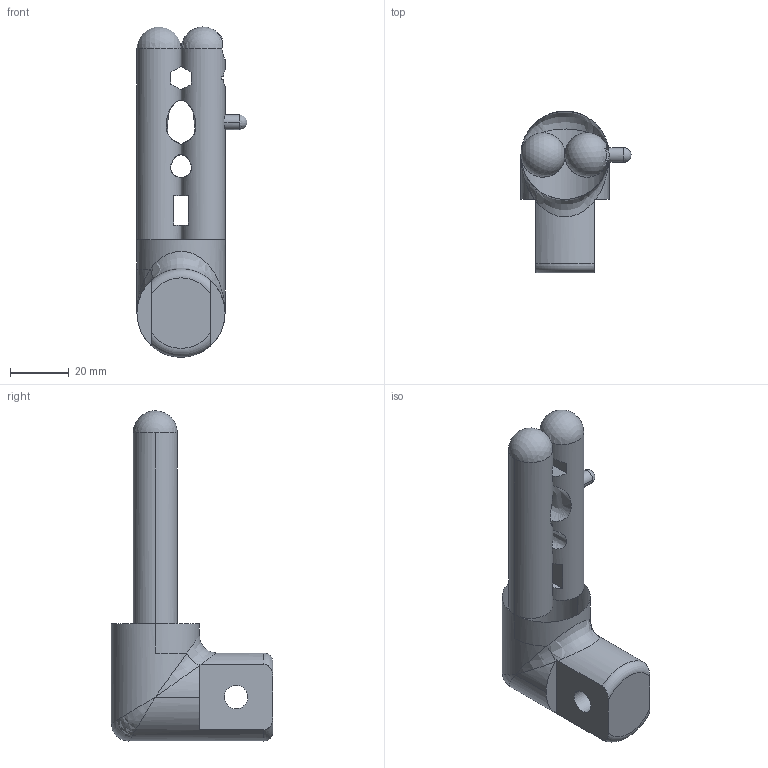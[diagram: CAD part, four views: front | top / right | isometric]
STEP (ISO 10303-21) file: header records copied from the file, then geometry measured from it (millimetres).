
FILE_DESCRIPTION(('CATIA V5 STEP Exchange'),'2;1');
FILE_NAME('C:\Users\user\SkyDrive\Stuff\cad\Instructables\Hand adapter\CATIA V5, STEP ,IGES Files\Arm_without_cup holder.stp','2017-01-15T11:17:30+00:00',('none'),('none'),'CATIA Version 5 Release 20 GA (IN-10)','CATIA V5 STEP AP203','none');
FILE_SCHEMA(('CONFIG_CONTROL_DESIGN'));
Length unit declared in the file: millimetre
Products named in the file (1): Part1
Bounding box: 37.48 x 55 x 112.49 mm (x, y, z)
Volume: 62919.7 mm3; surface area: 14785.6 mm2
Topology: 1 solids, 1 shells, 91 faces, 264 edges, 169 vertices
Faces by surface type: plane 63, cylinder 16, extrusion 4, sphere 3, bspline 3, torus 2
Entity records: 3719 total; most frequent: CARTESIAN_POINT 1627, ORIENTED_EDGE 510, DIRECTION 283, EDGE_CURVE 255, VERTEX_POINT 166, VECTOR 149, LINE 145, EDGE_LOOP 93
